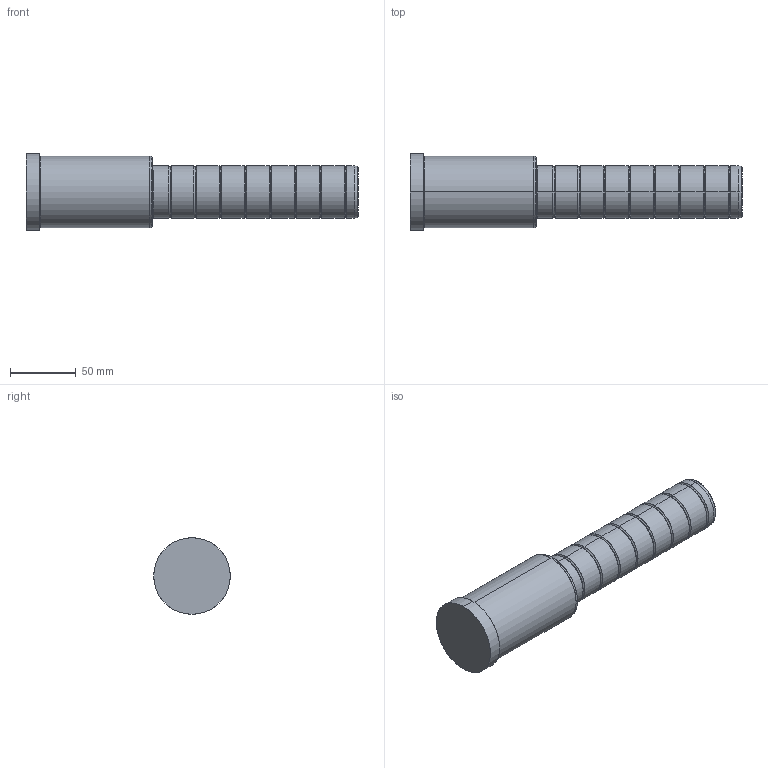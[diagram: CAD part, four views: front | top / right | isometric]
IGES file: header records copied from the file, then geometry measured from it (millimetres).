
Start section: SolidWorks IGES file using analytic representation for surfaces
Global section: file name: C:\Documents and Settings\kalite-mail\Desktop\IGS\D02\40\D02 - 40x96x156.IGS; native system: SolidWorks 2008; preprocessor: SolidWorks 2008; author: kalite-mail; date: 080617.101553; units: millimetre
Bounding box: 252 x 58 x 58 mm (x, y, z)
Surface area: 42157.2 mm2 (no closed solid volume)
Topology: 0 solids, 0 shells, 72 faces, 904 edges, 904 vertices
Faces by surface type: bspline 42, revolution 30
